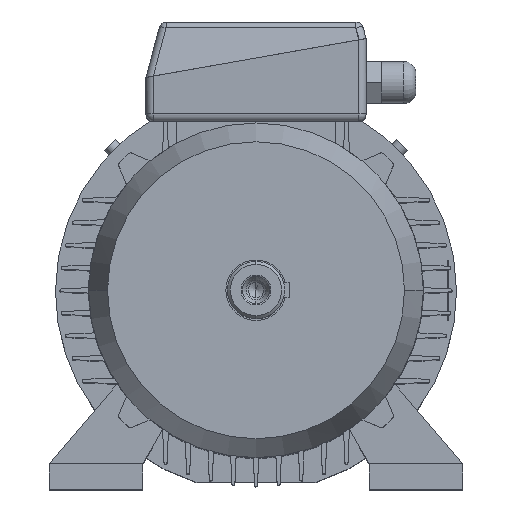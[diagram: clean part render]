
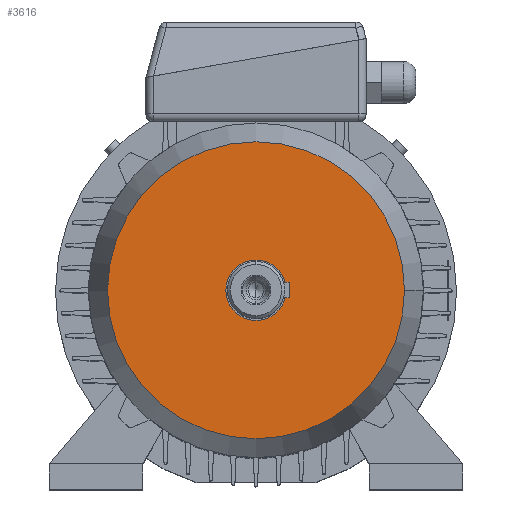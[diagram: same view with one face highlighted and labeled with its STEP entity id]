
A CAD part, top view. The second image highlights one B-rep face of the part: STEP entity #3616.
In plain terms, the highlighted planar face has unit normal (0, 0, 1).
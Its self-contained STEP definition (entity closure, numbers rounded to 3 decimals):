
#736 = EDGE_CURVE ( 'NONE', #10514, #10762, #4551, .T. ) ;
#1279 = CARTESIAN_POINT ( 'NONE',  ( 98.5, 0., 47. ) ) ;
#1394 = CARTESIAN_POINT ( 'NONE',  ( -98.5, 0., 47. ) ) ;
#2000 = EDGE_CURVE ( 'NONE', #10762, #10514, #5272, .T. ) ;
#2600 = ORIENTED_EDGE ( 'NONE', *, *, #2000, .F. ) ;
#2936 = ORIENTED_EDGE ( 'NONE', *, *, #736, .F. ) ;
#3169 = EDGE_LOOP ( 'NONE', ( #2600, #2936 ) ) ;
#3616 = ADVANCED_FACE ( 'NONE', ( #9039 ), #9040, .T. ) ;
#4551 = CIRCLE ( 'NONE', #4552, 98.5 ) ;
#4552 = AXIS2_PLACEMENT_3D ( 'NONE', #4553, #4554, #4555 ) ;
#4553 = CARTESIAN_POINT ( 'NONE',  ( 0., 0., 47. ) ) ;
#4554 = DIRECTION ( 'NONE',  ( 0., 0., -1. ) ) ;
#4555 = DIRECTION ( 'NONE',  ( -1., 0., 0. ) ) ;
#5272 = CIRCLE ( 'NONE', #5273, 98.5 ) ;
#5273 = AXIS2_PLACEMENT_3D ( 'NONE', #5274, #5275, #5276 ) ;
#5274 = CARTESIAN_POINT ( 'NONE',  ( 0., 0., 47. ) ) ;
#5275 = DIRECTION ( 'NONE',  ( 0., 0., -1. ) ) ;
#5276 = DIRECTION ( 'NONE',  ( -1., 0., 0. ) ) ;
#9039 = FACE_OUTER_BOUND ( 'NONE', #3169, .T. ) ;
#9040 = PLANE ( 'NONE',  #9041 ) ;
#9041 = AXIS2_PLACEMENT_3D ( 'NONE', #9042, #9043, #9044 ) ;
#9042 = CARTESIAN_POINT ( 'NONE',  ( 0., 98.5, 47. ) ) ;
#9043 = DIRECTION ( 'NONE',  ( 0., 0., 1. ) ) ;
#9044 = DIRECTION ( 'NONE',  ( 1., 0., 0. ) ) ;
#10514 = VERTEX_POINT ( 'NONE', #1279 ) ;
#10762 = VERTEX_POINT ( 'NONE', #1394 ) ;
